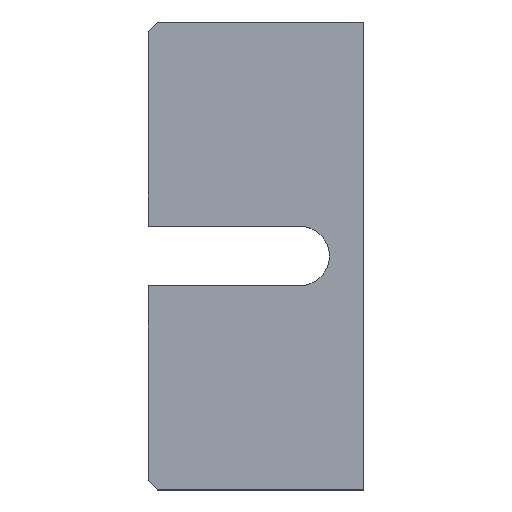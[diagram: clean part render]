
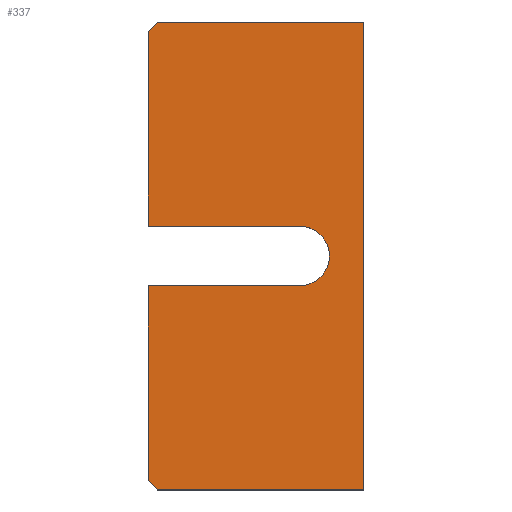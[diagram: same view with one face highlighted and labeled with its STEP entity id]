
A CAD part, top view. The second image highlights one B-rep face of the part: STEP entity #337.
In plain terms, the highlighted planar face has unit normal (0, 0, 1).
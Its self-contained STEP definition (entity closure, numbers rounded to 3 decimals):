
#164=AXIS2_PLACEMENT_3D('Circle Axis2P3D',#162,#163,$) ;
#318=AXIS2_PLACEMENT_3D('Plane Axis2P3D',#315,#316,#317) ;
#41=CARTESIAN_POINT('Vertex',(0.,-22.25,3.)) ;
#57=CARTESIAN_POINT('Vertex',(16.5,-22.25,3.)) ;
#60=CARTESIAN_POINT('Line Origine',(8.25,-22.25,3.)) ;
#83=CARTESIAN_POINT('Vertex',(23.5,-51.,3.)) ;
#97=CARTESIAN_POINT('Vertex',(23.5,0.,3.)) ;
#100=CARTESIAN_POINT('Line Origine',(23.5,-25.5,3.)) ;
#130=CARTESIAN_POINT('Vertex',(0.,-28.75,3.)) ;
#133=CARTESIAN_POINT('Line Origine',(8.25,-28.75,3.)) ;
#137=CARTESIAN_POINT('Vertex',(16.5,-28.75,3.)) ;
#162=CARTESIAN_POINT('Axis2P3D Location',(16.5,-25.5,3.)) ;
#179=CARTESIAN_POINT('Line Origine',(0.,-39.375,3.)) ;
#183=CARTESIAN_POINT('Vertex',(0.,-50.,3.)) ;
#216=CARTESIAN_POINT('Vertex',(1.,-51.,3.)) ;
#224=CARTESIAN_POINT('Line Origine',(12.25,-51.,3.)) ;
#241=CARTESIAN_POINT('Line Origine',(0.5,-50.5,3.)) ;
#265=CARTESIAN_POINT('Line Origine',(0.,-11.625,3.)) ;
#269=CARTESIAN_POINT('Vertex',(0.,-1.,3.)) ;
#295=CARTESIAN_POINT('Vertex',(1.,0.,3.)) ;
#298=CARTESIAN_POINT('Line Origine',(12.25,0.,3.)) ;
#315=CARTESIAN_POINT('Axis2P3D Location',(0.,0.,3.)) ;
#320=CARTESIAN_POINT('Line Origine',(0.5,-0.5,3.)) ;
#61=DIRECTION('Vector Direction',(1.,0.,0.)) ;
#101=DIRECTION('Vector Direction',(0.,1.,0.)) ;
#134=DIRECTION('Vector Direction',(-1.,0.,0.)) ;
#163=DIRECTION('Axis2P3D Direction',(0.,0.,1.)) ;
#180=DIRECTION('Vector Direction',(0.,-1.,0.)) ;
#225=DIRECTION('Vector Direction',(-1.,0.,0.)) ;
#242=DIRECTION('Vector Direction',(-0.707,0.707,0.)) ;
#266=DIRECTION('Vector Direction',(0.,-1.,0.)) ;
#299=DIRECTION('Vector Direction',(1.,0.,0.)) ;
#316=DIRECTION('Axis2P3D Direction',(0.,0.,1.)) ;
#317=DIRECTION('Axis2P3D XDirection',(1.,0.,0.)) ;
#321=DIRECTION('Vector Direction',(0.707,0.707,0.)) ;
#62=VECTOR('Line Direction',#61,1.) ;
#102=VECTOR('Line Direction',#101,1.) ;
#135=VECTOR('Line Direction',#134,1.) ;
#181=VECTOR('Line Direction',#180,1.) ;
#226=VECTOR('Line Direction',#225,1.) ;
#243=VECTOR('Line Direction',#242,1.) ;
#267=VECTOR('Line Direction',#266,1.) ;
#300=VECTOR('Line Direction',#299,1.) ;
#322=VECTOR('Line Direction',#321,1.) ;
#326=ORIENTED_EDGE('',*,*,#271,.T.) ;
#327=ORIENTED_EDGE('',*,*,#64,.F.) ;
#328=ORIENTED_EDGE('',*,*,#166,.F.) ;
#329=ORIENTED_EDGE('',*,*,#139,.F.) ;
#330=ORIENTED_EDGE('',*,*,#185,.T.) ;
#331=ORIENTED_EDGE('',*,*,#245,.F.) ;
#332=ORIENTED_EDGE('',*,*,#228,.T.) ;
#333=ORIENTED_EDGE('',*,*,#104,.T.) ;
#334=ORIENTED_EDGE('',*,*,#302,.T.) ;
#335=ORIENTED_EDGE('',*,*,#324,.F.) ;
#337=ADVANCED_FACE('\X2\96F64EF651E04F554F53\X0\',(#336),#319,.T.) ;
#165=CIRCLE('generated circle',#164,3.25) ;
#64=EDGE_CURVE('',#58,#42,#63,.F.) ;
#104=EDGE_CURVE('',#84,#98,#103,.T.) ;
#139=EDGE_CURVE('',#131,#138,#136,.F.) ;
#166=EDGE_CURVE('',#138,#58,#165,.T.) ;
#185=EDGE_CURVE('',#131,#184,#182,.T.) ;
#228=EDGE_CURVE('',#217,#84,#227,.F.) ;
#245=EDGE_CURVE('',#217,#184,#244,.T.) ;
#271=EDGE_CURVE('',#270,#42,#268,.T.) ;
#302=EDGE_CURVE('',#98,#296,#301,.F.) ;
#324=EDGE_CURVE('',#270,#296,#323,.T.) ;
#325=EDGE_LOOP('',(#326,#327,#328,#329,#330,#331,#332,#333,#334,#335)) ;
#336=FACE_OUTER_BOUND('',#325,.T.) ;
#63=LINE('Line',#60,#62) ;
#103=LINE('Line',#100,#102) ;
#136=LINE('Line',#133,#135) ;
#182=LINE('Line',#179,#181) ;
#227=LINE('Line',#224,#226) ;
#244=LINE('Line',#241,#243) ;
#268=LINE('Line',#265,#267) ;
#301=LINE('Line',#298,#300) ;
#323=LINE('Line',#320,#322) ;
#319=PLANE('',#318) ;
#42=VERTEX_POINT('',#41) ;
#58=VERTEX_POINT('',#57) ;
#84=VERTEX_POINT('',#83) ;
#98=VERTEX_POINT('',#97) ;
#131=VERTEX_POINT('',#130) ;
#138=VERTEX_POINT('',#137) ;
#184=VERTEX_POINT('',#183) ;
#217=VERTEX_POINT('',#216) ;
#270=VERTEX_POINT('',#269) ;
#296=VERTEX_POINT('',#295) ;
